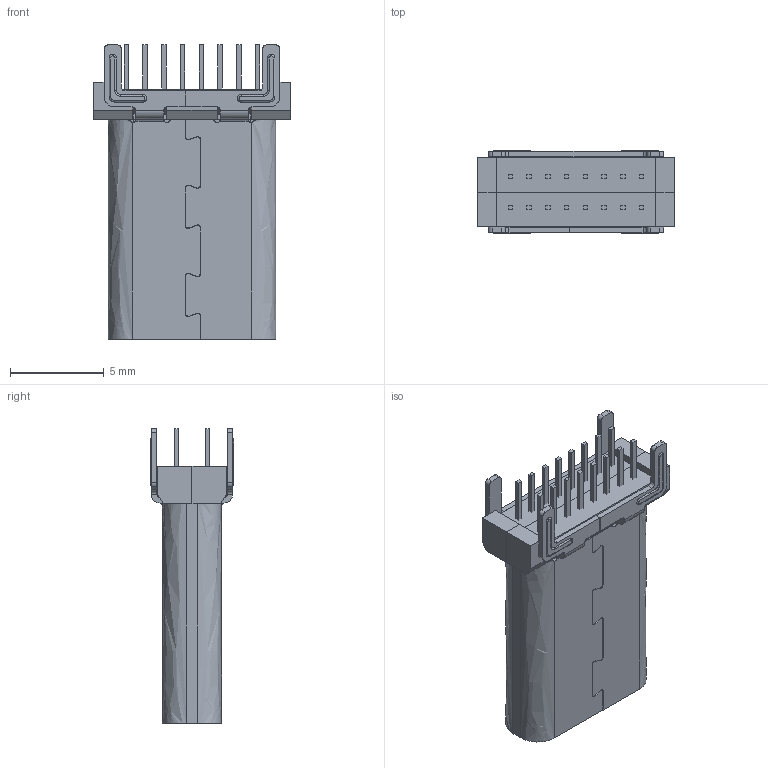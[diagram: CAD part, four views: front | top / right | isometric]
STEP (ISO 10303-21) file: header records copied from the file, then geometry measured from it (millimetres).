
FILE_DESCRIPTION (( 'STEP AP214' ), '1' );
FILE_NAME ('U5331-16PN13.7L .STEP', '2026-07-30T07:02:01', ( '' ), ( '' ), 'SwSTEP 2.0', 'SolidWorks 2024', '' );
FILE_SCHEMA (( 'AUTOMOTIVE_DESIGN' ));
Length unit declared in the file: millimetre
Products named in the file (1): U5331-16PN13.7L 
Bounding box: 10.5 x 4.44 x 15.7 mm (x, y, z)
Surface area: 1470.6 mm2 (no closed solid volume)
Topology: 0 solids, 29 shells, 1210 faces, 3502 edges, 2334 vertices
Faces by surface type: bspline 1210
Entity records: 39607 total; most frequent: CARTESIAN_POINT 19031, ORIENTED_EDGE 6886, EDGE_CURVE 3502, B_SPLINE_CURVE_WITH_KNOTS 3103, VERTEX_POINT 2334, EDGE_LOOP 1256, ADVANCED_FACE 1210, FACE_OUTER_BOUND 1210
